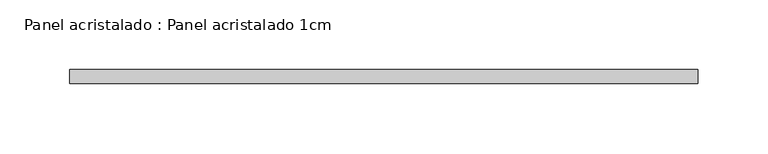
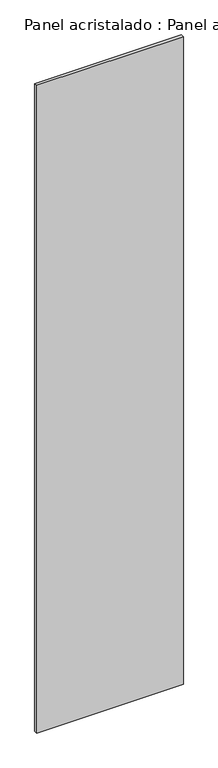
"""IFC4 building model written with IfcOpenShell, lengths in millimetres: plate geometry, Panel acristalado : Panel acristalado 1cm."""

from ifc_helpers import new_model, si_unit, origin, origin_with_axes, place, context, project, spatial, polyline, outline, extrude, source, transform, mapped, element, save


def panel_acristalado_panel_acristalado_1cm_969c867a(model_context):
    return source(origin(), model_context, "Body", "SweptSolid", [
        extrude(outline(polyline([(225.0, -20.0), (225.0, -30.0), (-225.0, -30.0), (-225.0, -20.0), (225.0, -20.0)])), origin_with_axes(), (0.0, 0.0, 1.0), 2100.0),
    ])


if __name__ == "__main__":
    model = new_model("IFC4")
    model_context = context("Model", 3, world=origin())
    ifc_project = project(units=[si_unit("LENGTHUNIT", "METRE", prefix="MILLI")], contexts=[model_context])
    site = spatial("IfcSite", under=ifc_project)
    building = spatial("IfcBuilding", under=site)
    placement = place(None, origin())
    panel_acristalado_panel_acristalado_1cm_shape = panel_acristalado_panel_acristalado_1cm_969c867a(model_context)
    element("IfcPlate", 1, ObjectType="Panel acristalado : Panel acristalado 1cm", at=placement, inside=building, context=model_context, shape_type="MappedRepresentation", body=[
        mapped(panel_acristalado_panel_acristalado_1cm_shape, transform((0.0, 0.0, 0.0), x_axis=(1.0, 0.0, 0.0), y_axis=(0.0, 1.0, 0.0), z_axis=(0.0, 0.0, 1.0))),
    ])
    save(model, "model.ifc")
